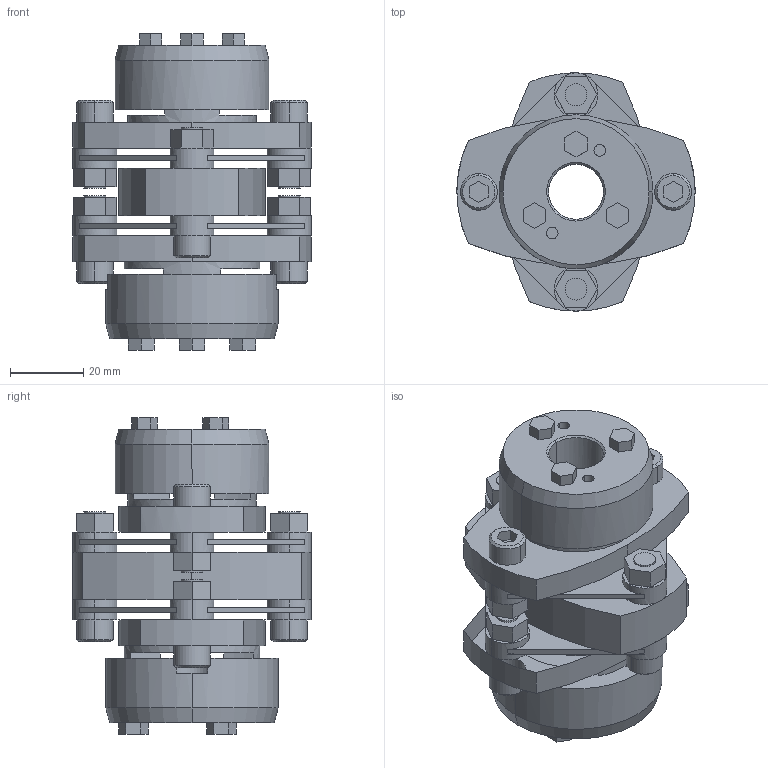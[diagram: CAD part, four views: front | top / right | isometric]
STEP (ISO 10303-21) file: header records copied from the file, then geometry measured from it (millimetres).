
FILE_DESCRIPTION((''),'2;1');
FILE_NAME('LCD-65T7-14×20.stp','2015-10-28T08:58:17',(''),(''),'AutoCAD STEP 2000i','AutoCAD 2000i',', , ');
FILE_SCHEMA(('CONFIG_CONTROL_DESIGN'));
Length unit declared in the file: millimetre
Products named in the file (9): LCD-65T7-14×19; 忣兜1; LC65T7-T019; LC65T7-T017; LC65T7-T015; LC65T7-T014-1; LC65T7-T014; LC65T7-T015-1; LCD65-ITA
Assembly tree (9 placements, depth 2):
  LCD-65T7-14×19
    忣兜1
    LC65T7-T019
    LC65T7-T017
    LC65T7-T015  x2
    LC65T7-T014-1
    LC65T7-T014
    LC65T7-T015-1
    LCD65-ITA
Bounding box: 65 x 65 x 86.4 mm (x, y, z)
Volume: 113550.4 mm3; surface area: 40495.1 mm2
Topology: 1 solids, 1 shells, 300 faces, 795 edges, 535 vertices
Faces by surface type: plane 178, cylinder 98, cone 24
Entity records: 9585 total; most frequent: DIRECTION 1702, CARTESIAN_POINT 1626, ORIENTED_EDGE 1562, EDGE_CURVE 781, AXIS2_PLACEMENT_3D 597, VERTEX_POINT 509, VECTOR 508, LINE 508
